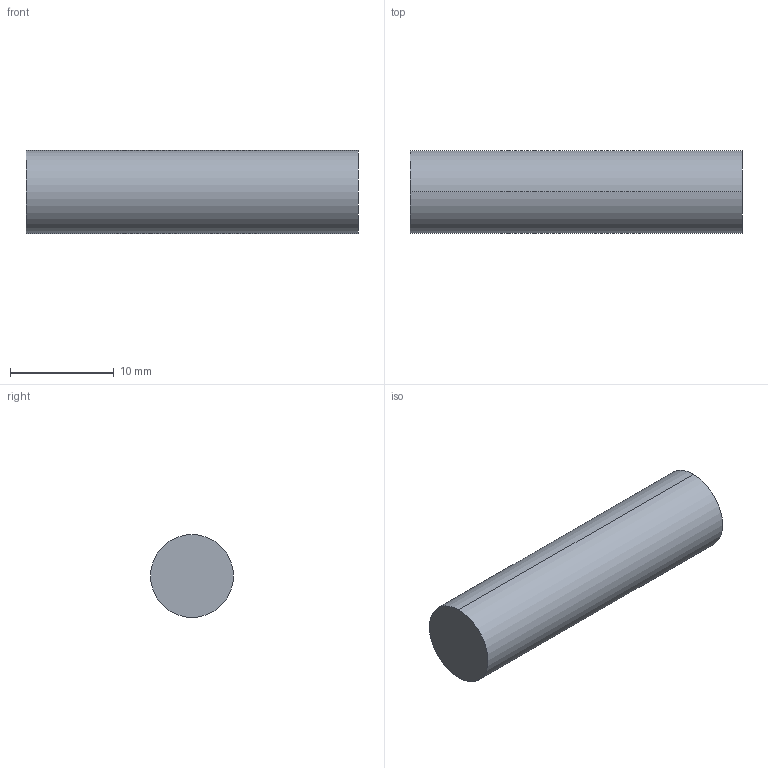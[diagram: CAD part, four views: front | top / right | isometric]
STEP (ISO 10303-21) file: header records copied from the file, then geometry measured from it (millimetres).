
FILE_DESCRIPTION (( 'STEP AP214' ), '1' );
FILE_NAME ('55.3-AN-8-32.step', '2019-04-12T08:10:23', ( 'user' ), ( '' ), 'SwSTEP 2.0', 'SolidWorks 2019', '' );
FILE_SCHEMA (( 'AUTOMOTIVE_DESIGN' ));
Length unit declared in the file: millimetre
Products named in the file (1): 55.3-AN-8-32
Bounding box: 32 x 8 x 8 mm (x, y, z)
Volume: 1608.5 mm3; surface area: 904.8 mm2
Topology: 1 solids, 1 shells, 4 faces, 6 edges, 4 vertices
Faces by surface type: cylinder 2, plane 2
Entity records: 128 total; most frequent: DIRECTION 20, CARTESIAN_POINT 15, ORIENTED_EDGE 12, AXIS2_PLACEMENT_3D 9, EDGE_CURVE 6, ADVANCED_FACE 4, EDGE_LOOP 4, CIRCLE 4
